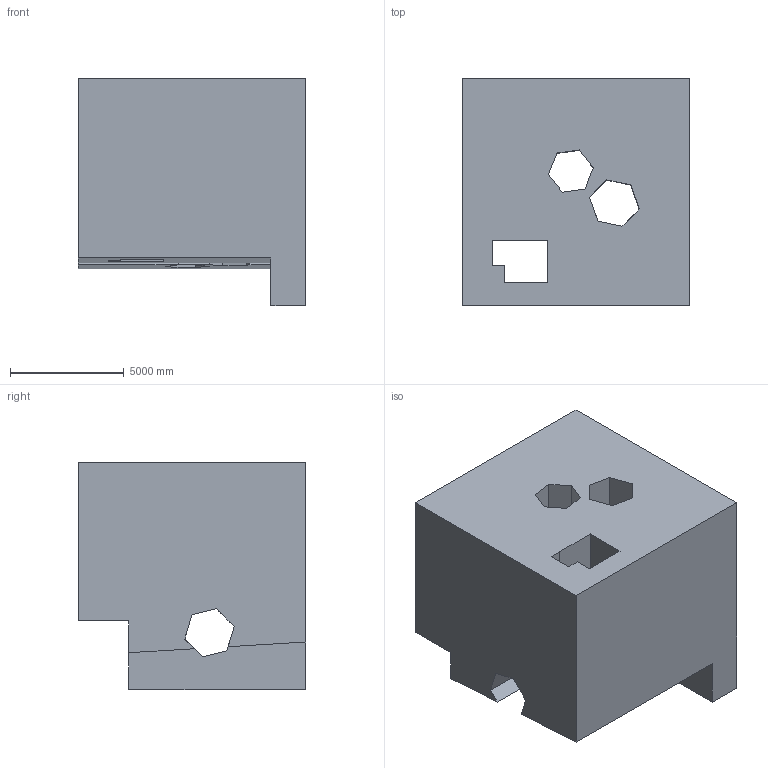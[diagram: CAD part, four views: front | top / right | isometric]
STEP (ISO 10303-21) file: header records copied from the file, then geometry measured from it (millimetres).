
FILE_DESCRIPTION (( 'STEP AP203' ), '1' );
FILE_NAME ('865.STEP', '2022-08-04T16:03:35', ( 'user' ), ( '' ), 'SwSTEP 2.0', 'SolidWorks 2021', '' );
FILE_SCHEMA (( 'CONFIG_CONTROL_DESIGN' ));
Length unit declared in the file: centimetre
Products named in the file (1): 865
Bounding box: 10000 x 10000 x 10000 mm (x, y, z)
Volume: 697933535553.3 mm3; surface area: 730014473.1 mm2
Topology: 1 solids, 1 shells, 49 faces, 153 edges, 102 vertices
Faces by surface type: plane 47, cylinder 2
Entity records: 1770 total; most frequent: ORIENTED_EDGE 306, CARTESIAN_POINT 305, DIRECTION 259, EDGE_CURVE 153, VECTOR 147, LINE 147, VERTEX_POINT 102, AXIS2_PLACEMENT_3D 56
